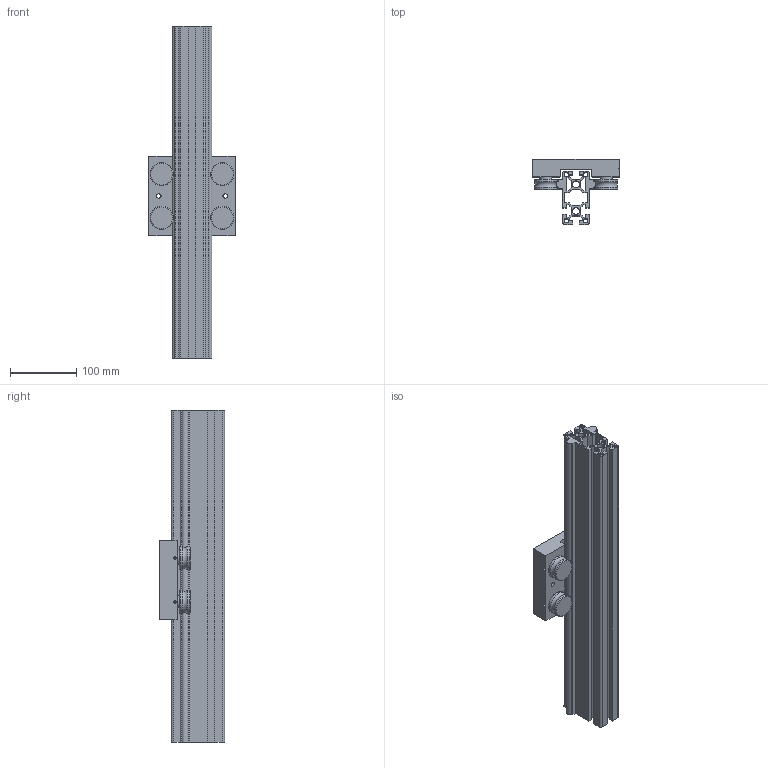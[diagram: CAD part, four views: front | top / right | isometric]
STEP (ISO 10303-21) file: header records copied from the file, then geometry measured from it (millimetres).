
FILE_DESCRIPTION (( 'STEP AP214' ), '1' );
FILE_NAME ('LSAP4080.STEP', '2021-12-15T07:03:07', ( '' ), ( '' ), 'SwSTEP 2.0', 'SolidWorks 2019', '' );
FILE_SCHEMA (( 'AUTOMOTIVE_DESIGN' ));
Length unit declared in the file: millimetre
Products named in the file (3): LSAP4080; LSAP4080キャリッジ; LSAP4080レール
Assembly tree (2 placements, depth 2):
  LSAP4080
    LSAP4080レール
    LSAP4080キャリッジ
Bounding box: 130 x 98 x 500 mm (x, y, z)
Volume: 1089767.2 mm3; surface area: 473161.8 mm2
Topology: 10 solids, 10 shells, 323 faces, 779 edges, 498 vertices
Faces by surface type: plane 185, cylinder 74, cone 52, torus 12
Full cylindrical faces by diameter (mm): 3 x2, 4 x2, 6.8 x4, 10.5 x2, 12 x8, 13 x4, 18 x4, 21 x4, 26 x4, 35 x8
Entity records: 11766 total; most frequent: CARTESIAN_POINT 2083, DIRECTION 1485, ORIENTED_EDGE 1434, EDGE_CURVE 717, AXIS2_PLACEMENT_3D 536, VERTEX_POINT 494, EDGE_LOOP 445, VECTOR 413
